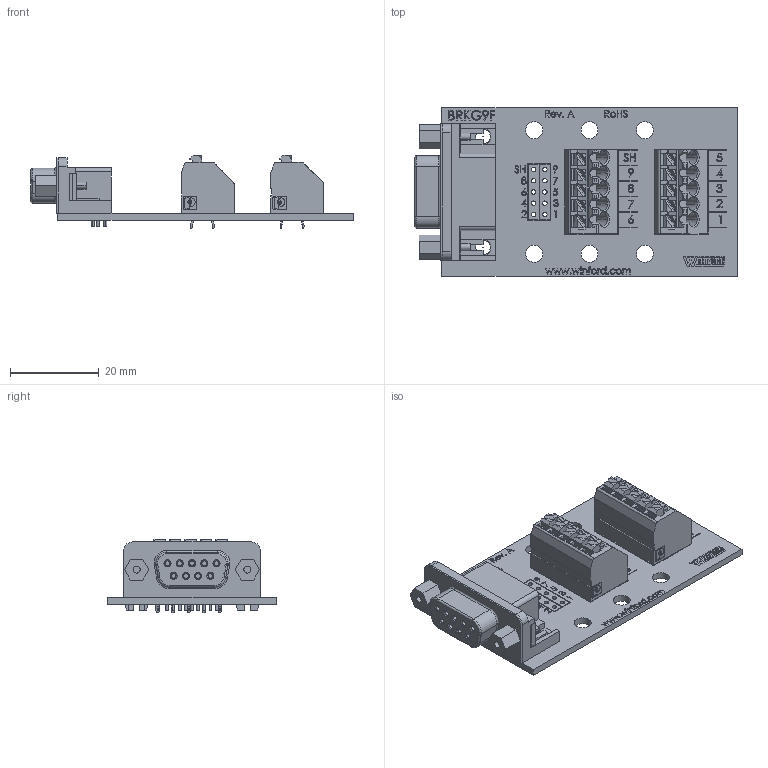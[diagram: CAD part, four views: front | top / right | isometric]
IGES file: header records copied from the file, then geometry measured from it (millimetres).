
Start section: SolidWorks IGES file using analytic representation for surfaces
Global section: file name: C:\Users\Jonny\Documents\Winford Engineering Jobs\BRK Boards\BRKG9F\brkg9f-r-n_rev_a.igs; native system: SolidWorks 2017; preprocessor: SolidWorks 2017; author: Jonny; date: 170511.220742; units: inch
Bounding box: 72.8 x 38.1 x 16.6 mm (x, y, z)
Volume: 12025.2 mm3; surface area: 12861.4 mm2
Topology: 19 solids, 19 shells, 2298 faces, 6133 edges, 4010 vertices
Faces by surface type: plane 1429, revolution 559, bspline 310
